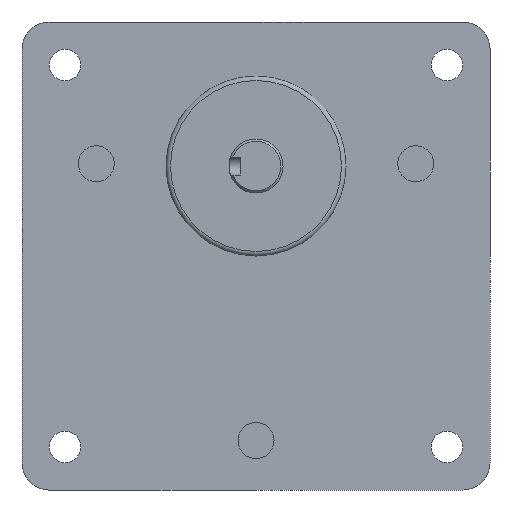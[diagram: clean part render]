
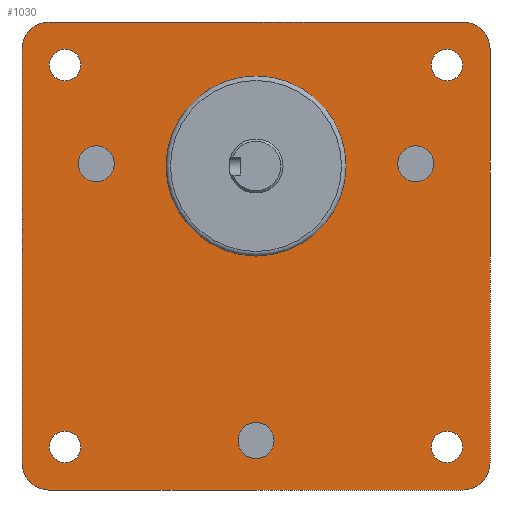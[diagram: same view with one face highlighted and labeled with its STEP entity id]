
A CAD part, front view. The second image highlights one B-rep face of the part: STEP entity #1030.
In plain terms, the highlighted planar face has unit normal (0, -1, 0).
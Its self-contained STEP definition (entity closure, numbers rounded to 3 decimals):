
#121=CARTESIAN_POINT('',(33.507,0.0,23.964));
#122=VERTEX_POINT('',#121);
#123=CARTESIAN_POINT('',(35.507,0.0,20.5));
#124=DIRECTION('',(0.0,1.0,0.0));
#125=DIRECTION('',(0.5,0.0,-0.866));
#126=AXIS2_PLACEMENT_3D('',#123,#124,#125);
#127=CIRCLE('',#126,4.);
#128=EDGE_CURVE('',#122,#122,#127,.T.);
#158=CARTESIAN_POINT('',(-37.507,0.0,17.036));
#159=VERTEX_POINT('',#158);
#160=CARTESIAN_POINT('',(-35.507,0.0,20.5));
#161=DIRECTION('',(0.0,1.,0.0));
#162=DIRECTION('',(0.5,0.0,0.866));
#163=AXIS2_PLACEMENT_3D('',#160,#161,#162);
#164=CIRCLE('',#163,4.0);
#165=EDGE_CURVE('',#159,#159,#164,.T.);
#195=CARTESIAN_POINT('',(4.0,0.0,-41.));
#196=VERTEX_POINT('',#195);
#197=CARTESIAN_POINT('',(0.0,0.0,-41.));
#198=DIRECTION('',(0.0,1.0,0.0));
#199=DIRECTION('',(-1.0,0.0,0.0));
#200=AXIS2_PLACEMENT_3D('',#197,#198,#199);
#201=CIRCLE('',#200,4.0);
#202=EDGE_CURVE('',#196,#196,#201,.T.);
#474=CARTESIAN_POINT('',(-38.925,0.0,-42.425));
#475=VERTEX_POINT('',#474);
#476=CARTESIAN_POINT('',(-42.425,0.0,-42.425));
#477=DIRECTION('',(0.0,1.0,0.0));
#478=DIRECTION('',(1.0,0.0,0.0));
#479=AXIS2_PLACEMENT_3D('',#476,#477,#478);
#480=CIRCLE('',#479,3.5);
#481=EDGE_CURVE('',#475,#475,#480,.T.);
#523=CARTESIAN_POINT('',(45.925,0.0,-42.425));
#524=VERTEX_POINT('',#523);
#525=CARTESIAN_POINT('',(42.425,0.0,-42.425));
#526=DIRECTION('',(0.0,1.0,0.0));
#527=DIRECTION('',(1.0,0.0,0.0));
#528=AXIS2_PLACEMENT_3D('',#525,#526,#527);
#529=CIRCLE('',#528,3.5);
#530=EDGE_CURVE('',#524,#524,#529,.T.);
#572=CARTESIAN_POINT('',(45.925,0.0,42.425));
#573=VERTEX_POINT('',#572);
#574=CARTESIAN_POINT('',(42.425,0.0,42.425));
#575=DIRECTION('',(0.0,1.0,0.0));
#576=DIRECTION('',(1.0,0.0,0.0));
#577=AXIS2_PLACEMENT_3D('',#574,#575,#576);
#578=CIRCLE('',#577,3.5);
#579=EDGE_CURVE('',#573,#573,#578,.T.);
#621=CARTESIAN_POINT('',(-38.925,0.0,42.425));
#622=VERTEX_POINT('',#621);
#623=CARTESIAN_POINT('',(-42.425,0.0,42.425));
#624=DIRECTION('',(0.0,1.0,0.0));
#625=DIRECTION('',(1.0,0.0,0.0));
#626=AXIS2_PLACEMENT_3D('',#623,#624,#625);
#627=CIRCLE('',#626,3.5);
#628=EDGE_CURVE('',#622,#622,#627,.T.);
#677=CARTESIAN_POINT('',(20.0,0.0,20.));
#678=VERTEX_POINT('',#677);
#679=CARTESIAN_POINT('',(0.0,0.0,20.0));
#680=DIRECTION('',(0.0,1.0,0.0));
#681=DIRECTION('',(-1.0,0.0,0.0));
#682=AXIS2_PLACEMENT_3D('',#679,#680,#681);
#683=CIRCLE('',#682,20.0);
#684=EDGE_CURVE('',#678,#678,#683,.T.);
#720=CARTESIAN_POINT('',(-46.,0.0,-52.0));
#721=VERTEX_POINT('',#720);
#728=CARTESIAN_POINT('',(-52.,0.0,-46.0));
#729=VERTEX_POINT('',#728);
#730=CARTESIAN_POINT('',(-46.,0.0,-46.0));
#731=DIRECTION('',(0.0,1.,0.0));
#732=DIRECTION('',(-0.707,0.0,-0.707));
#733=AXIS2_PLACEMENT_3D('',#730,#731,#732);
#734=CIRCLE('',#733,6.);
#735=EDGE_CURVE('',#721,#729,#734,.T.);
#760=CARTESIAN_POINT('',(46.0,0.0,-52.0));
#761=VERTEX_POINT('',#760);
#768=CARTESIAN_POINT('',(46.,0.0,-52.0));
#769=DIRECTION('',(-1.0,0.0,0.0));
#770=VECTOR('',#769,92.0);
#771=LINE('',#768,#770);
#772=EDGE_CURVE('',#761,#721,#771,.T.);
#857=CARTESIAN_POINT('',(52.0,0.0,-46.));
#858=VERTEX_POINT('',#857);
#865=CARTESIAN_POINT('',(46.0,0.0,-46.0));
#866=DIRECTION('',(0.0,1.,0.0));
#867=DIRECTION('',(0.707,0.0,-0.707));
#868=AXIS2_PLACEMENT_3D('',#865,#866,#867);
#869=CIRCLE('',#868,6.);
#870=EDGE_CURVE('',#858,#761,#869,.T.);
#883=CARTESIAN_POINT('',(52.0,0.0,46.0));
#884=VERTEX_POINT('',#883);
#891=CARTESIAN_POINT('',(52.0,0.0,46.));
#892=DIRECTION('',(0.0,0.0,-1.0));
#893=VECTOR('',#892,92.0);
#894=LINE('',#891,#893);
#895=EDGE_CURVE('',#884,#858,#894,.T.);
#906=CARTESIAN_POINT('',(46.,0.0,52.0));
#907=VERTEX_POINT('',#906);
#914=CARTESIAN_POINT('',(46.0,0.0,46.0));
#915=DIRECTION('',(0.0,1.,0.0));
#916=DIRECTION('',(0.707,0.0,0.707));
#917=AXIS2_PLACEMENT_3D('',#914,#915,#916);
#918=CIRCLE('',#917,6.);
#919=EDGE_CURVE('',#907,#884,#918,.T.);
#932=CARTESIAN_POINT('',(-46.0,0.0,52.0));
#933=VERTEX_POINT('',#932);
#940=CARTESIAN_POINT('',(-46.,0.0,52.0));
#941=DIRECTION('',(1.0,0.0,0.0));
#942=VECTOR('',#941,92.0);
#943=LINE('',#940,#942);
#944=EDGE_CURVE('',#933,#907,#943,.T.);
#955=CARTESIAN_POINT('',(-52.0,0.0,46.));
#956=VERTEX_POINT('',#955);
#963=CARTESIAN_POINT('',(-46.0,0.0,46.0));
#964=DIRECTION('',(0.0,1.,0.0));
#965=DIRECTION('',(-0.707,0.0,0.707));
#966=AXIS2_PLACEMENT_3D('',#963,#964,#965);
#967=CIRCLE('',#966,6.);
#968=EDGE_CURVE('',#956,#933,#967,.T.);
#980=CARTESIAN_POINT('',(-52.,0.0,-46.));
#981=DIRECTION('',(0.0,0.0,1.0));
#982=VECTOR('',#981,92.0);
#983=LINE('',#980,#982);
#984=EDGE_CURVE('',#729,#956,#983,.T.);
#991=CARTESIAN_POINT('',(0.,0.0,0.));
#992=DIRECTION('',(0.0,1.0,0.0));
#993=DIRECTION('',(0.0,0.0,1.0));
#994=AXIS2_PLACEMENT_3D('',#991,#992,#993);
#995=PLANE('',#994);
#996=ORIENTED_EDGE('',*,*,#735,.F.);
#997=ORIENTED_EDGE('',*,*,#772,.F.);
#998=ORIENTED_EDGE('',*,*,#870,.F.);
#999=ORIENTED_EDGE('',*,*,#895,.F.);
#1000=ORIENTED_EDGE('',*,*,#919,.F.);
#1001=ORIENTED_EDGE('',*,*,#944,.F.);
#1002=ORIENTED_EDGE('',*,*,#968,.F.);
#1003=ORIENTED_EDGE('',*,*,#984,.F.);
#1004=EDGE_LOOP('',(#996,#997,#998,#999,#1000,#1001,#1002,#1003));
#1005=FACE_OUTER_BOUND('',#1004,.T.);
#1006=ORIENTED_EDGE('',*,*,#128,.T.);
#1007=EDGE_LOOP('',(#1006));
#1008=FACE_BOUND('',#1007,.T.);
#1009=ORIENTED_EDGE('',*,*,#165,.T.);
#1010=EDGE_LOOP('',(#1009));
#1011=FACE_BOUND('',#1010,.T.);
#1012=ORIENTED_EDGE('',*,*,#202,.T.);
#1013=EDGE_LOOP('',(#1012));
#1014=FACE_BOUND('',#1013,.T.);
#1015=ORIENTED_EDGE('',*,*,#481,.T.);
#1016=EDGE_LOOP('',(#1015));
#1017=FACE_BOUND('',#1016,.T.);
#1018=ORIENTED_EDGE('',*,*,#530,.T.);
#1019=EDGE_LOOP('',(#1018));
#1020=FACE_BOUND('',#1019,.T.);
#1021=ORIENTED_EDGE('',*,*,#579,.T.);
#1022=EDGE_LOOP('',(#1021));
#1023=FACE_BOUND('',#1022,.T.);
#1024=ORIENTED_EDGE('',*,*,#628,.T.);
#1025=EDGE_LOOP('',(#1024));
#1026=FACE_BOUND('',#1025,.T.);
#1027=ORIENTED_EDGE('',*,*,#684,.T.);
#1028=EDGE_LOOP('',(#1027));
#1029=FACE_BOUND('',#1028,.T.);
#1030=ADVANCED_FACE('',(#1005,#1008,#1011,#1014,#1017,#1020,#1023,#1026,#1029),#995,.F.);
